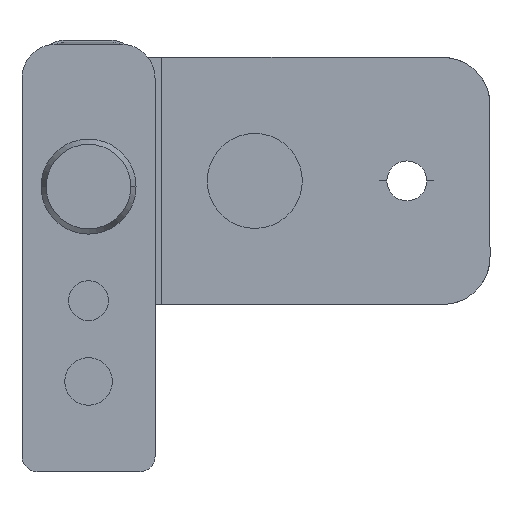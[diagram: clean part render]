
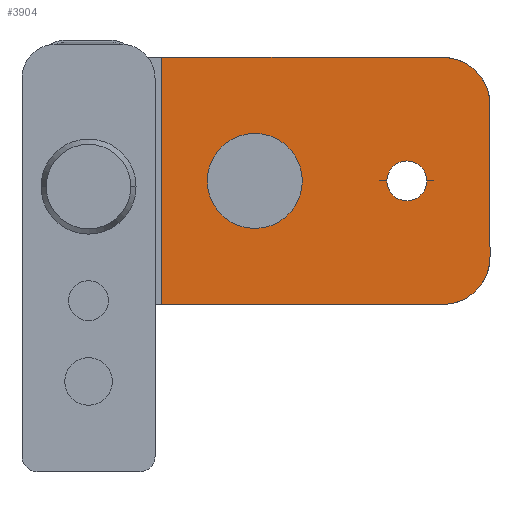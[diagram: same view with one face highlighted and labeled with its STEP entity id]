
A CAD part, front view. The second image highlights one B-rep face of the part: STEP entity #3904.
In plain terms, the highlighted planar face has unit normal (0, -1, 0).
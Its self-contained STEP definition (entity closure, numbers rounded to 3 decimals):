
#28 = VERTEX_POINT ( 'NONE', #1322 ) ;
#48 = VERTEX_POINT ( 'NONE', #739 ) ;
#50 = VERTEX_POINT ( 'NONE', #741 ) ;
#288 = CARTESIAN_POINT ( 'NONE',  ( 37.25, 347., -7.4 ) ) ;
#289 = DIRECTION ( 'NONE',  ( 0., 1., 0. ) ) ;
#290 = DIRECTION ( 'NONE',  ( 1., 0., 0. ) ) ;
#302 = CARTESIAN_POINT ( 'NONE',  ( 42.25, 347., 13.6 ) ) ;
#303 = DIRECTION ( 'NONE',  ( -1., 0., 0. ) ) ;
#739 = CARTESIAN_POINT ( 'NONE',  ( 37.25, 347., 13.6 ) ) ;
#741 = CARTESIAN_POINT ( 'NONE',  ( 42.25, 347., -7.4 ) ) ;
#1123 = PLANE ( 'NONE',  #1758 ) ;
#1124 = CARTESIAN_POINT ( 'NONE',  ( 42.25, 347., 13.6 ) ) ;
#1125 = DIRECTION ( 'NONE',  ( 0., 1., 0. ) ) ;
#1126 = DIRECTION ( 'NONE',  ( 1., 0., 0. ) ) ;
#1187 = CARTESIAN_POINT ( 'NONE',  ( 35.6, 347., 0.6 ) ) ;
#1246 = CARTESIAN_POINT ( 'NONE',  ( 42.25, 347., 13.6 ) ) ;
#1247 = DIRECTION ( 'NONE',  ( 0., 0., -1. ) ) ;
#1322 = CARTESIAN_POINT ( 'NONE',  ( 31.4, 347., 0.6 ) ) ;
#1454 = VERTEX_POINT ( 'NONE', #3913 ) ;
#1457 = VERTEX_POINT ( 'NONE', #3916 ) ;
#1459 = VERTEX_POINT ( 'NONE', #3918 ) ;
#1463 = VERTEX_POINT ( 'NONE', #3922 ) ;
#1593 = EDGE_CURVE ( 'NONE', #2984, #28, #2226, .T. ) ;
#1620 = AXIS2_PLACEMENT_3D ( 'NONE', #3967, #3968, #3969 ) ;
#1621 = AXIS2_PLACEMENT_3D ( 'NONE', #3483, #3484, #3485 ) ;
#1622 = AXIS2_PLACEMENT_3D ( 'NONE', #3486, #3487, #3488 ) ;
#1646 = AXIS2_PLACEMENT_3D ( 'NONE', #288, #289, #290 ) ;
#1758 = AXIS2_PLACEMENT_3D ( 'NONE', #1124, #1125, #1126 ) ;
#2226 = CIRCLE ( 'NONE', #1620, 2.1 ) ;
#2248 = CIRCLE ( 'NONE', #1621, 2.1 ) ;
#2249 = LINE ( 'NONE', #3489, #2251 ) ;
#2250 = CIRCLE ( 'NONE', #1622, 5. ) ;
#2251 = VECTOR ( 'NONE', #3490, 1000. ) ;
#2252 = LINE ( 'NONE', #3491, #2253 ) ;
#2253 = VECTOR ( 'NONE', #3492, 1000. ) ;
#2332 = LINE ( 'NONE', #1246, #2333 ) ;
#2333 = VECTOR ( 'NONE', #1247, 1000. ) ;
#2364 = CIRCLE ( 'NONE', #1646, 5. ) ;
#2373 = LINE ( 'NONE', #302, #2374 ) ;
#2374 = VECTOR ( 'NONE', #303, 1000. ) ;
#2580 = FACE_BOUND ( 'NONE', #3605, .T. ) ;
#2581 = FACE_OUTER_BOUND ( 'NONE', #3604, .T. ) ;
#2930 = EDGE_CURVE ( 'NONE', #28, #2984, #2248, .T. ) ;
#2931 = EDGE_CURVE ( 'NONE', #48, #1459, #2250, .T. ) ;
#2932 = EDGE_CURVE ( 'NONE', #1463, #1454, #2249, .T. ) ;
#2933 = EDGE_CURVE ( 'NONE', #1457, #1454, #2252, .T. ) ;
#2984 = VERTEX_POINT ( 'NONE', #1187 ) ;
#3038 = EDGE_CURVE ( 'NONE', #1459, #50, #2332, .T. ) ;
#3057 = EDGE_CURVE ( 'NONE', #50, #1457, #2364, .T. ) ;
#3063 = EDGE_CURVE ( 'NONE', #48, #1463, #2373, .T. ) ;
#3483 = CARTESIAN_POINT ( 'NONE',  ( 33.5, 347., 0.6 ) ) ;
#3484 = DIRECTION ( 'NONE',  ( 0., -1., 0. ) ) ;
#3485 = DIRECTION ( 'NONE',  ( 1., 0., 0. ) ) ;
#3486 = CARTESIAN_POINT ( 'NONE',  ( 37.25, 347., 8.6 ) ) ;
#3487 = DIRECTION ( 'NONE',  ( 0., 1., 0. ) ) ;
#3488 = DIRECTION ( 'NONE',  ( 1., 0., 0. ) ) ;
#3489 = CARTESIAN_POINT ( 'NONE',  ( 7.7, 347., 13.6 ) ) ;
#3490 = DIRECTION ( 'NONE',  ( 0., 0., -1. ) ) ;
#3491 = CARTESIAN_POINT ( 'NONE',  ( 42.25, 347., -12.4 ) ) ;
#3492 = DIRECTION ( 'NONE',  ( -1., 0., 0. ) ) ;
#3604 = EDGE_LOOP ( 'NONE', ( #4240, #4239, #4238, #4237, #4236, #4235 ) ) ;
#3605 = EDGE_LOOP ( 'NONE', ( #4242, #4241 ) ) ;
#3904 = ADVANCED_FACE ( 'NONE', ( #2580, #2581 ), #1123, .F. ) ;
#3913 = CARTESIAN_POINT ( 'NONE',  ( 7.7, 347., -12.4 ) ) ;
#3916 = CARTESIAN_POINT ( 'NONE',  ( 37.25, 347., -12.4 ) ) ;
#3918 = CARTESIAN_POINT ( 'NONE',  ( 42.25, 347., 8.6 ) ) ;
#3922 = CARTESIAN_POINT ( 'NONE',  ( 7.7, 347., 13.6 ) ) ;
#3967 = CARTESIAN_POINT ( 'NONE',  ( 33.5, 347., 0.6 ) ) ;
#3968 = DIRECTION ( 'NONE',  ( 0., -1., 0. ) ) ;
#3969 = DIRECTION ( 'NONE',  ( 1., 0., 0. ) ) ;
#4235 = ORIENTED_EDGE ( 'NONE', *, *, #3057, .F. ) ;
#4236 = ORIENTED_EDGE ( 'NONE', *, *, #2933, .F. ) ;
#4237 = ORIENTED_EDGE ( 'NONE', *, *, #2932, .T. ) ;
#4238 = ORIENTED_EDGE ( 'NONE', *, *, #3063, .T. ) ;
#4239 = ORIENTED_EDGE ( 'NONE', *, *, #2931, .F. ) ;
#4240 = ORIENTED_EDGE ( 'NONE', *, *, #3038, .F. ) ;
#4241 = ORIENTED_EDGE ( 'NONE', *, *, #2930, .F. ) ;
#4242 = ORIENTED_EDGE ( 'NONE', *, *, #1593, .F. ) ;
